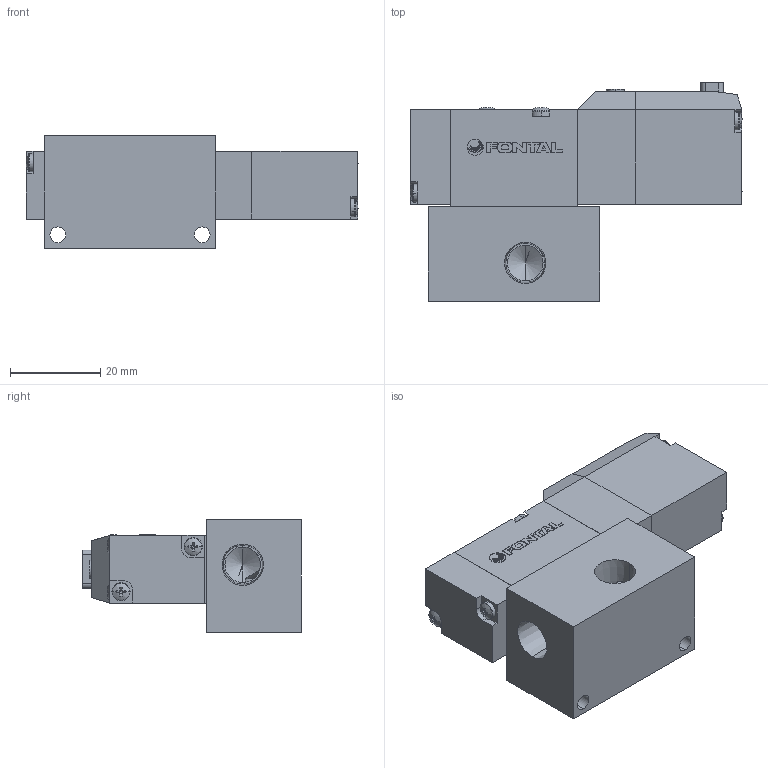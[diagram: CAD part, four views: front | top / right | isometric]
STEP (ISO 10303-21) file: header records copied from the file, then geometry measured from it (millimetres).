
FILE_DESCRIPTION (( 'STEP AP203' ), '1' );
FILE_NAME ('PCS245#-01-#-U-#.STEP', '2016-02-04T03:52:52', ( 'Sam Lin' ), ( '' ), 'SwSTEP 2.0', 'SolidWorks 2013', '' );
FILE_SCHEMA (( 'CONFIG_CONTROL_DESIGN' ));
Length unit declared in the file: metre
Products named in the file (10): PC5-4; ISO 7045 - M2.5 x 25; PC5-2; ISO 7045 - M2 x 10; PC5-5; PC5-01-1; PC-MARK; PC5-3-U; PC5-6; PCS245#-01-#-U-#
Assembly tree (13 placements, depth 2):
  PCS245#-01-#-U-#
    PC5-2
    ISO 7045 - M2 x 10  x4
    PC5-5
    PC-MARK
    PC5-6
    PC5-4
    ISO 7045 - M2.5 x 25  x2
    PC5-01-1
    PC5-3-U
Bounding box: 73.64 x 48.5 x 25 mm (x, y, z)
Volume: 40720.8 mm3; surface area: 16696.8 mm2
Topology: 19 solids, 19 shells, 491 faces, 1209 edges, 750 vertices
Faces by surface type: plane 268, cylinder 95, cone 84, bspline 44
Entity records: 11072 total; most frequent: CARTESIAN_POINT 2308, ORIENTED_EDGE 1578, DIRECTION 1564, EDGE_CURVE 789, AXIS2_PLACEMENT_3D 550, VERTEX_POINT 510, VECTOR 464, LINE 464
